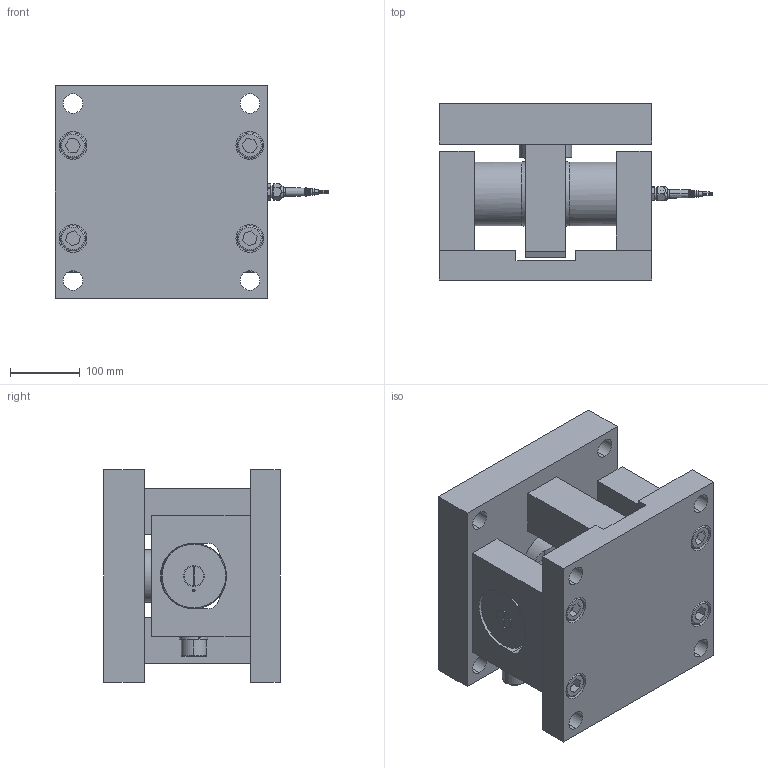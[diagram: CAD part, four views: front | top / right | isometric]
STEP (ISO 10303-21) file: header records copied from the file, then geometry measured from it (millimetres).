
FILE_DESCRIPTION (( 'STEP AP214' ), '1' );
FILE_NAME ('KDH-1A 200 klb Module.STEP', '2021-03-12T12:26:24', ( '' ), ( '' ), 'SwSTEP 2.0', 'SolidWorks 2021', '' );
FILE_SCHEMA (( 'AUTOMOTIVE_DESIGN' ));
Length unit declared in the file: millimetre
Products named in the file (17): 504242r0; M26x1.5 - Lock - 600490r1; 504240r0; MC6S M30x70; 504238r0; 503742r0; Wiberger-din912_m6x45; Kabel; Pg9 - 1009.52 6_2_14; M26x1.5 - Pg9 - 6369829; fjäderbricka M24; MC6S M24x55; 504241r0; 601443r0; KDH-1A 200 klb Module; KDH-1 200000Lb; 504239r0
Assembly tree (24 placements, depth 3):
  KDH-1A 200 klb Module
    504238r0
    504241r0
    504240r0  x2
    504239r0
    504242r0
    fjäderbricka M24  x2
    601443r0  x2
    KDH-1 200000Lb
      503742r0
      M26x1.5 - Pg9 - 6369829
      Pg9 - 1009.52 6_2_14
      M26x1.5 - Lock - 600490r1
      Kabel
    Wiberger-din912_m6x45  x2
    MC6S M30x70  x2
    MC6S M24x55  x4
Bounding box: 392.61 x 253.24 x 304.8 mm (x, y, z)
Volume: 14031548.6 mm3; surface area: 1106105.7 mm2
Topology: 23 solids, 26 shells, 1760 faces, 3697 edges, 2024 vertices
Faces by surface type: cone 545, torus 512, cylinder 439, plane 230, bspline 34
Entity records: 28623 total; most frequent: CARTESIAN_POINT 7405, DIRECTION 4626, ORIENTED_EDGE 3736, AXIS2_PLACEMENT_3D 1964, EDGE_CURVE 1868, CIRCLE 1097, VERTEX_POINT 1081, EDGE_LOOP 969
